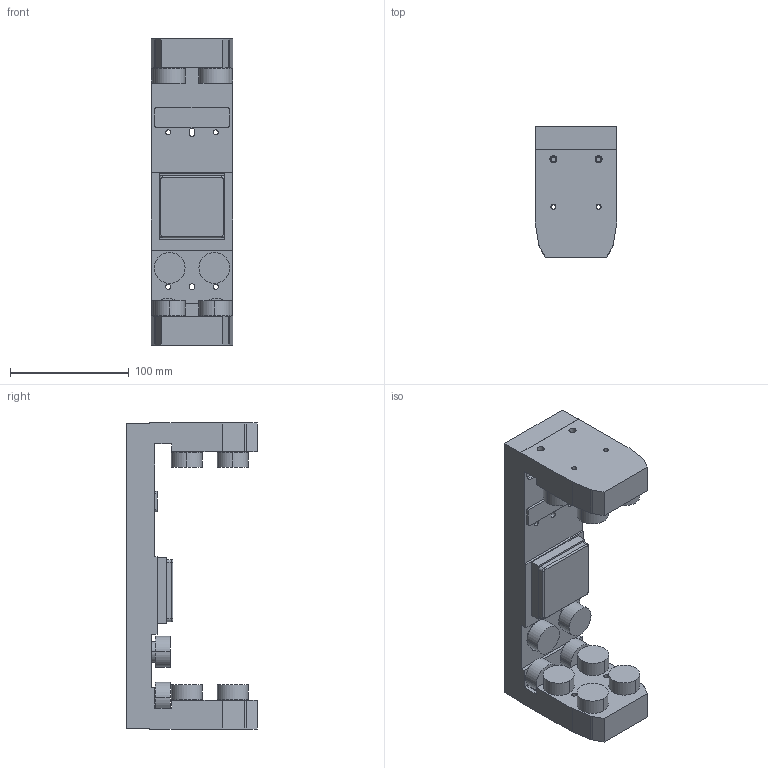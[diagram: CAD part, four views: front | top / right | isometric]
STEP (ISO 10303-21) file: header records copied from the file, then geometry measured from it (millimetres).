
FILE_DESCRIPTION((''),'2;1');
FILE_NAME('W0001033984','2024-08-20T15:44:23',('RRajan1'),('Rockwell Automation'),'CREO PARAMETRIC BY PTC INC, 2020281','CREO PARAMETRIC BY PTC INC, 2020281','');
FILE_SCHEMA(('CONFIG_CONTROL_DESIGN'));
Length unit declared in the file: millimetre
Products named in the file (1): W0001033984
Bounding box: 69 x 109.97 x 257.6 mm (x, y, z)
Volume: 799383.4 mm3; surface area: 111951.6 mm2
Topology: 1 solids, 1 shells, 201 faces, 492 edges, 324 vertices
Faces by surface type: cylinder 106, plane 91, bspline 4
Entity records: 6156 total; most frequent: CARTESIAN_POINT 1121, DIRECTION 1094, ORIENTED_EDGE 984, EDGE_CURVE 492, AXIS2_PLACEMENT_3D 409, VERTEX_POINT 324, VECTOR 276, LINE 276
